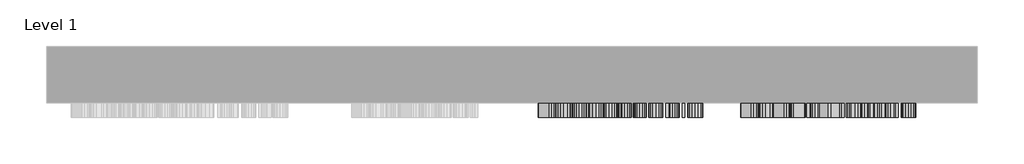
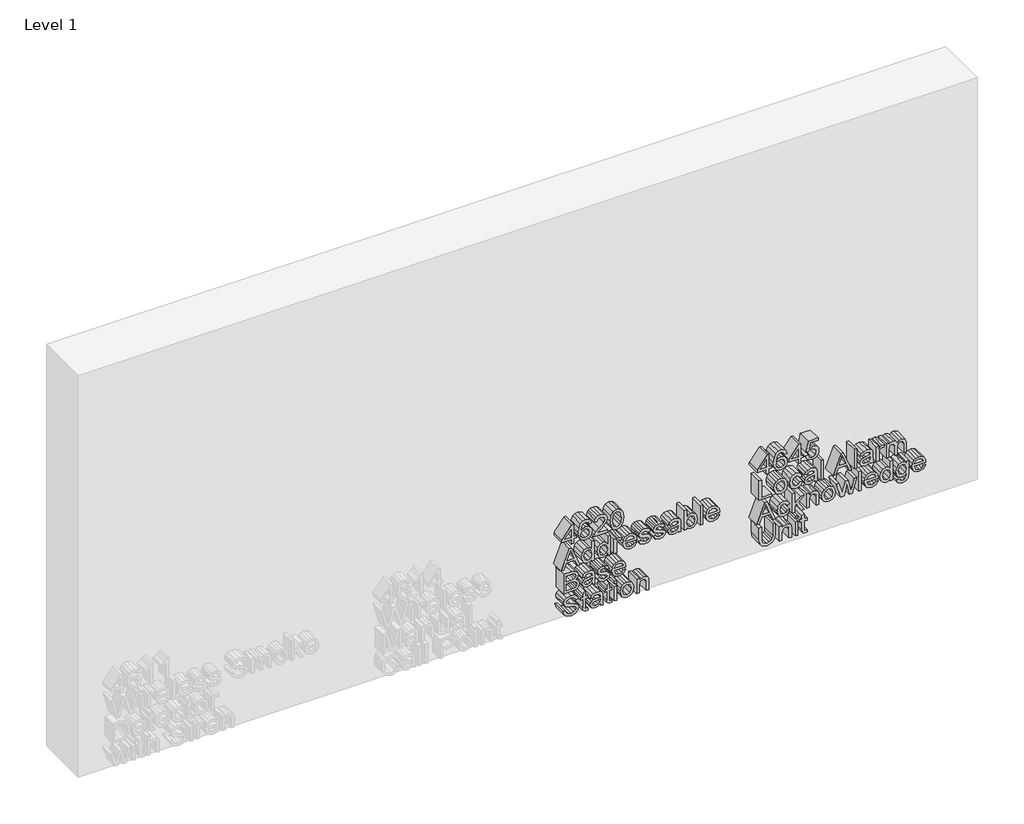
# One storey, part 2 of 2: 2 proxies.
"""IFC4 building model written with IfcOpenShell, lengths in millimetres."""

from ifc_helpers import new_model, si_unit, frame, origin, place, context, project, spatial, polyline, outline, extrude, element, save

model = new_model("IFC4")

# Units and contexts
model_context = context("Model", 3, world=origin())
ifc_project = project(units=[si_unit("LENGTHUNIT", "METRE", prefix="MILLI")], contexts=[model_context])

# Site, building, storey
site = spatial("IfcSite", under=ifc_project)
building = spatial("IfcBuilding", under=site)
storey = spatial("IfcBuildingStorey", under=building, Name="Level 1", Elevation=0.0)

# Proxies
placement = place(None, origin())
element("IfcBuildingElementProxy", 1, Name="75 mm", ObjectType="75 mm", at=placement, inside=storey, context=model_context, shape_type="SweptSolid", body=[
    extrude(outline(polyline([(309.6099203, -2173.7442573), (309.6099203, -2164.3264782), (327.2682561, -2164.3264782), (327.2682561, -2154.9086991), (336.6860352, -2154.9086991), (336.6860352, -2164.3264782), (383.7749306, -2164.3264782), (383.7749306, -2171.3898125), (336.6860352, -2207.8837064), (327.2682561, -2207.8837064), (327.2682561, -2173.7442573), (309.6099203, -2173.7442573)]), holes=[polyline([(336.6860352, -2173.7442573), (336.6860352, -2196.2954236), (365.785501, -2173.7442573), (336.6860352, -2173.7442573)])]), frame((0.0, 3097.8550077, 0.0), z_axis=(0.0, 1.0, 0.0), x_axis=(0.0, 0.0, 1.0)), (0.0, 0.0, 1.0), 50.0),
    extrude(outline(polyline([(364.9393724, -2098.4020247), (379.6362581, -2105.3549944), (384.9521529, -2120.2358211), (382.8046418, -2131.1665149), (376.3621084, -2139.6048081), (363.5368223, -2145.7852256), (344.7794391, -2147.8453648), (328.0959906, -2145.98986), (316.8939838, -2140.4233456), (310.5480194, -2131.9137752), (308.432698, -2121.2291025), (311.6240743, -2108.8866615), (320.8211241, -2100.3334051), (333.8165556, -2097.2248023), (343.4688595, -2098.8756727), (351.1621917, -2103.8282841), (356.1975765, -2111.1307417), (357.8760381, -2119.8311509), (355.4204258, -2130.1226497), (347.906436, -2138.4275857), (364.6910521, -2135.7512442), (373.2535055, -2129.3225064), (375.5343739, -2120.8244323), (371.6164306, -2111.3882591), (363.76215, -2107.8198037), (364.9393724, -2098.4020247)]), holes=[polyline([(333.9637084, -2138.4275857), (344.4575423, -2133.7462873), (348.458259, -2122.3511425), (344.4575423, -2110.808845), (333.5038559, -2106.6425814), (322.0627259, -2110.8640272), (317.850477, -2121.9648665), (319.8830251, -2130.4537435), (325.8059252, -2136.2478849), (333.9637084, -2138.4275857)])]), frame((0.0, 3097.8550077, 0.0), z_axis=(0.0, 1.0, 0.0), x_axis=(0.0, 0.0, 1.0)), (0.0, 0.0, 1.0), 50.0),
    extrude(outline(polyline([(319.0276994, -2040.7181278), (319.0276994, -2077.7086624), (323.8193624, -2073.4596254), (332.8784565, -2062.6255006), (345.7819175, -2049.1334285), (355.0157556, -2043.5692133), (363.946091, -2041.8953502), (372.1590566, -2043.4473524), (378.9188882, -2048.1033589), (383.4438368, -2055.4219113), (384.9521529, -2064.9615513), (383.5955881, -2074.4322134), (379.5258935, -2081.7645614), (372.8718279, -2086.701078), (363.76215, -2088.9842456), (362.5849276, -2079.5664665), (372.0946772, -2075.602538), (375.5343739, -2065.1638864), (372.0119038, -2055.1482991), (363.3758739, -2051.3131293), (352.7072961, -2055.3782253), (337.017129, -2071.6386095), (326.1002308, -2083.4292275), (316.1030376, -2089.1497925), (309.6099203, -2090.161468), (309.6099203, -2040.7181278), (319.0276994, -2040.7181278)])), frame((0.0, 3097.8550077, 0.0), z_axis=(0.0, 1.0, 0.0), x_axis=(0.0, 0.0, 1.0)), (0.0, 0.0, 1.0), 50.0),
    extrude(outline(polyline([(346.6740313, -2031.3003487), (328.3489095, -2029.4241506), (315.6063969, -2023.795556), (310.2261227, -2016.3643397), (308.432698, -2006.5786787), (312.5621733, -1992.7923009), (325.0885553, -1984.5977295), (346.6740313, -1981.8570086), (364.3783524, -1983.5676599), (375.5251768, -1987.9822438), (382.5241318, -1995.579007), (384.9521529, -2006.5786787), (380.8502687, -2020.3098741), (368.3514779, -2028.5320367), (346.6740313, -2031.3003487)]), holes=[polyline([(346.6924254, -2021.8825697), (361.3157348, -2020.7421355), (370.4943905, -2017.3208329), (375.5343739, -2006.6890433), (369.8138088, -1995.5422188), (346.6924254, -1991.2747877), (331.90127, -1992.3784337), (323.3227217, -1995.6893716), (317.850477, -2006.5786787), (323.3043276, -2017.4679857), (331.8782774, -2020.7789237), (346.6924254, -2021.8825697)])]), frame((0.0, 3097.8550077, 0.0), z_axis=(0.0, 1.0, 0.0), x_axis=(0.0, 0.0, 1.0)), (0.0, 0.0, 1.0), 50.0),
    extrude(outline(polyline([(218.128807, -2209.5943577), (218.128807, -2199.6431497), (241.6732546, -2191.034711), (241.6732546, -2160.0038648), (218.128807, -2151.377032), (218.128807, -2141.425824), (293.4710396, -2171.5001771), (293.4710396, -2179.5200046), (218.128807, -2209.5943577)]), holes=[polyline([(251.0910337, -2187.5766203), (271.232573, -2180.2005863), (284.0532605, -2175.5100909), (269.6138922, -2170.2309842), (251.0910337, -2163.4435614), (251.0910337, -2187.5766203)])]), frame((0.0, 3097.8550077, 0.0), z_axis=(0.0, 1.0, 0.0), x_axis=(0.0, 0.0, 1.0)), (0.0, 0.0, 1.0), 50.0),
    extrude(outline(polyline([(218.128807, -2098.4020247), (218.128807, -2088.9842456), (293.4710396, -2088.9842456), (293.4710396, -2098.4020247), (265.4016433, -2098.4020247), (272.0695045, -2104.6008363), (274.6354814, -2113.2828514), (271.048632, -2125.3033956), (260.729542, -2133.3784054), (245.7383507, -2136.073141), (230.7563564, -2133.1484791), (220.5936163, -2124.9079224), (216.9515846, -2113.2460632), (219.4669777, -2104.633026), (227.0131571, -2098.4020247), (218.128807, -2098.4020247)]), holes=[polyline([(245.7751389, -2126.6553619), (260.5364039, -2122.6822363), (265.2177023, -2112.7678166), (260.3432659, -2102.5498942), (245.057769, -2098.4020247), (230.9770856, -2102.4763178), (226.3693636, -2112.3815405), (231.1978148, -2122.4063248), (245.7751389, -2126.6553619)])]), frame((0.0, 3097.8550077, 0.0), z_axis=(0.0, 1.0, 0.0), x_axis=(0.0, 0.0, 1.0)), (0.0, 0.0, 1.0), 50.0),
    extrude(outline(polyline([(218.128807, -2040.7181278), (218.128807, -2031.3003487), (293.4710396, -2031.3003487), (293.4710396, -2040.7181278), (265.4016433, -2040.7181278), (272.0695045, -2046.9169394), (274.6354814, -2055.5989545), (271.048632, -2067.6194987), (260.729542, -2075.6945085), (245.7383507, -2078.3892441), (230.7563564, -2075.4645823), (220.5936163, -2067.2240256), (216.9515846, -2055.5621663), (219.4669777, -2046.9491291), (227.0131571, -2040.7181278), (218.128807, -2040.7181278)]), holes=[polyline([(245.7751389, -2068.971465), (260.5364039, -2064.9983395), (265.2177023, -2055.0839197), (260.3432659, -2044.8659973), (245.057769, -2040.7181278), (230.9770856, -2044.7924209), (226.3693636, -2054.6976436), (231.1978148, -2064.722428), (245.7751389, -2068.971465)])]), frame((0.0, 3097.8550077, 0.0), z_axis=(0.0, 1.0, 0.0), x_axis=(0.0, 0.0, 1.0)), (0.0, 0.0, 1.0), 50.0),
    extrude(outline(polyline([(218.128807, -2017.1736801), (218.128807, -2007.7559011), (247.2098787, -2007.7559011), (258.2095503, -2006.2291908), (263.3598983, -2002.8354794), (265.2177023, -1997.5103875), (263.2863219, -1990.8885116), (271.7292136, -1987.7431205), (274.6354814, -1997.1976878), (272.8144655, -2003.0837997), (265.2728846, -2008.9331234), (273.458259, -2008.9331234), (273.458259, -2017.1736801), (218.128807, -2017.1736801)])), frame((0.0, 3097.8550077, 0.0), z_axis=(0.0, 1.0, 0.0), x_axis=(0.0, 0.0, 1.0)), (0.0, 0.0, 1.0), 50.0),
    extrude(outline(polyline([(234.6099203, -1943.1190345), (228.3375323, -1949.1890874), (226.3693636, -1958.4229255), (230.6184007, -1970.5538343), (242.850477, -1975.9708967), (242.850477, -1933.6460731), (245.3888628, -1933.5908908), (257.7359023, -1935.3774178), (266.9651418, -1940.7369986), (272.7178965, -1948.9108767), (274.6354814, -1959.1402954), (272.713298, -1969.6985087), (266.9467477, -1978.0862181), (257.6991141, -1983.5630613), (245.3336805, -1985.3886757), (233.3706179, -1983.5814554), (224.410392, -1978.1597945), (218.8162864, -1969.6571219), (216.9515846, -1958.6068665), (221.274198, -1942.5212263), (233.432698, -1933.8851964), (234.6099203, -1943.1190345)]), holes=[polyline([(252.2682561, -1975.9708967), (261.6952322, -1970.7745635), (265.2177023, -1959.1770836), (260.8031184, -1946.7794604), (252.2682561, -1943.0086699), (252.2682561, -1975.9708967)])]), frame((0.0, 3097.8550077, 0.0), z_axis=(0.0, 1.0, 0.0), x_axis=(0.0, 0.0, 1.0)), (0.0, 0.0, 1.0), 50.0),
    extrude(outline(polyline([(234.6099203, -1927.7047789), (221.4029567, -1920.4942918), (216.9515846, -1904.0683607), (219.2600441, -1892.4065015), (225.7991466, -1884.5246297), (234.8122554, -1881.7931059), (242.9976298, -1884.1199595), (248.0192191, -1890.5395003), (252.4521971, -1904.3626663), (254.457154, -1912.4744643), (256.5356872, -1915.9877374), (259.2764081, -1917.1097774), (263.4334747, -1914.4058448), (265.2177023, -1905.3927359), (263.3507012, -1897.106194), (258.154368, -1893.5653297), (259.3315904, -1884.1475507), (267.7836793, -1887.3849122), (272.7868744, -1894.6689757), (274.6354814, -1906.1284999), (273.4858502, -1914.2311008), (270.6991441, -1920.2183803), (265.337264, -1924.8352993), (258.3199149, -1926.5275565), (250.7231517, -1924.4214321), (245.3428775, -1918.2318175), (240.7351556, -1904.0499666), (238.049617, -1894.356276), (233.818974, -1891.210885), (228.5950497, -1894.3378819), (226.3693636, -1903.939602), (228.7973848, -1913.9275982), (235.7871427, -1918.2869998), (234.6099203, -1927.7047789)])), frame((0.0, 3097.8550077, 0.0), z_axis=(0.0, 1.0, 0.0), x_axis=(0.0, 0.0, 1.0)), (0.0, 0.0, 1.0), 50.0),
    extrude(outline(polyline([(234.6099203, -1874.7297716), (221.4029567, -1867.5192845), (216.9515846, -1851.0933534), (219.2600441, -1839.4314942), (225.7991466, -1831.5496224), (234.8122554, -1828.8180986), (242.9976298, -1831.1449522), (248.0192191, -1837.564493), (252.4521971, -1851.387659), (254.457154, -1859.499457), (256.5356872, -1863.01273), (259.2764081, -1864.1347701), (263.4334747, -1861.4308375), (265.2177023, -1852.4177286), (263.3507012, -1844.1311866), (258.154368, -1840.5903224), (259.3315904, -1831.1725434), (267.7836793, -1834.4099049), (272.7868744, -1841.6939684), (274.6354814, -1853.1534926), (273.4858502, -1861.2560935), (270.6991441, -1867.243373), (265.337264, -1871.860292), (258.3199149, -1873.5525492), (250.7231517, -1871.4464248), (245.3428775, -1865.2568102), (240.7351556, -1851.0749593), (238.049617, -1841.3812687), (233.818974, -1838.2358777), (228.5950497, -1841.3628746), (226.3693636, -1850.9645947), (228.7973848, -1860.9525909), (235.7871427, -1865.3119925), (234.6099203, -1874.7297716)])), frame((0.0, 3097.8550077, 0.0), z_axis=(0.0, 1.0, 0.0), x_axis=(0.0, 0.0, 1.0)), (0.0, 0.0, 1.0), 50.0),
    extrude(outline(polyline([(225.1921413, -1782.9064256), (218.128807, -1780.5519808), (218.128807, -1771.1342018), (226.0474669, -1773.0103999), (242.4090186, -1773.4886465), (254.1260602, -1773.4886465), (262.3666169, -1773.948499), (268.7585665, -1776.8363727), (272.9616183, -1783.2835046), (274.6354814, -1794.6970435), (272.7408891, -1807.1222579), (267.3514179, -1815.3260264), (258.154368, -1819.4003195), (256.9771456, -1809.9825404), (263.4058835, -1805.4391978), (265.2177023, -1795.9110541), (262.4953756, -1785.4999937), (255.5424059, -1782.9064256), (253.4454785, -1782.9616079), (250.2081169, -1799.2955685), (248.7917712, -1807.4441547), (245.7015625, -1814.0384394), (240.2936972, -1818.7749201), (232.8440868, -1820.5775419), (221.4213508, -1815.804273), (216.9515846, -1802.1282598), (218.8093886, -1792.0390961), (225.1921413, -1782.9064256)]), holes=[polyline([(244.0276994, -1782.9064256), (241.3605549, -1782.9616079), (234.0764914, -1784.45153), (228.6226409, -1790.5951593), (226.3693636, -1800.123303), (228.4111087, -1808.3546626), (233.5062744, -1811.1597628), (237.129912, -1809.8721758), (239.6131155, -1806.2025529), (241.1398258, -1798.099952), (244.0276994, -1782.9064256)])]), frame((0.0, 3097.8550077, 0.0), z_axis=(0.0, 1.0, 0.0), x_axis=(0.0, 0.0, 1.0)), (0.0, 0.0, 1.0), 50.0),
    extrude(outline(polyline([(218.128807, -1751.1214212), (226.9395807, -1751.1214212), (219.4485836, -1744.7616612), (216.9515846, -1736.3877473), (218.8875636, -1727.6114625), (224.6955006, -1720.1917425), (234.0489003, -1715.1356643), (246.6212675, -1713.4503049), (257.8508654, -1715.0781827), (266.817989, -1719.5755401), (272.5845393, -1726.8963918), (274.6354814, -1736.332565), (272.3592116, -1744.5271365), (265.530402, -1751.1214212), (293.4710396, -1751.1214212), (293.4710396, -1760.5392003), (218.128807, -1760.5392003), (218.128807, -1751.1214212)]), holes=[polyline([(246.1798091, -1751.1214212), (260.3248718, -1746.8723842), (265.2177023, -1736.7924175), (260.4904187, -1726.9423771), (245.8487153, -1722.868084), (231.2621942, -1727.117121), (226.3693636, -1737.1970877), (228.0294311, -1743.61203), (233.0096337, -1748.5462472), (246.1798091, -1751.1214212)])]), frame((0.0, 3097.8550077, 0.0), z_axis=(0.0, 1.0, 0.0), x_axis=(0.0, 0.0, 1.0)), (0.0, 0.0, 1.0), 50.0),
    extrude(outline(polyline([(-1693.4375244, 3097.8550077), (-1702.8553034, 3097.8550077), (-1702.8553034, 3147.8550077), (-1693.4375244, 3147.8550077), (-1693.4375244, 3097.8550077)])), frame((0.0, 0.0, 218.128807), z_axis=(0.0, 0.0, 1.0), x_axis=(1.0, 0.0, 0.0)), (0.0, 0.0, 1.0), 75.3422326),
    extrude(outline(polyline([(234.6099203, -1640.5728817), (228.3375323, -1646.6429346), (226.3693636, -1655.8767727), (230.6184007, -1668.0076815), (242.850477, -1673.4247438), (242.850477, -1631.0999203), (245.3888628, -1631.044738), (257.7359023, -1632.8312649), (266.9651418, -1638.1908457), (272.7178965, -1646.3647238), (274.6354814, -1656.5941426), (272.713298, -1667.1523558), (266.9467477, -1675.5400653), (257.6991141, -1681.0169085), (245.3336805, -1682.8425229), (233.3706179, -1681.0353026), (224.410392, -1675.6136417), (218.8162864, -1667.1109691), (216.9515846, -1656.0607137), (221.274198, -1639.9750734), (233.432698, -1631.3390436), (234.6099203, -1640.5728817)]), holes=[polyline([(252.2682561, -1673.4247438), (261.6952322, -1668.2284107), (265.2177023, -1656.6309308), (260.8031184, -1644.2333075), (252.2682561, -1640.4625171), (252.2682561, -1673.4247438)])]), frame((0.0, 3097.8550077, 0.0), z_axis=(0.0, 1.0, 0.0), x_axis=(0.0, 0.0, 1.0)), (0.0, 0.0, 1.0), 50.0),
    extrude(outline(polyline([(126.6476936, -2200.8203721), (126.6476936, -2172.2911234), (127.9444776, -2160.2153969), (131.7704504, -2152.0208255), (138.9809375, -2146.5301867), (149.1068894, -2144.3136977), (160.8239309, -2147.5602563), (167.850477, -2156.8400796), (174.5183382, -2149.1973311), (183.3199149, -2146.6681424), (192.9584232, -2149.6755777), (199.7734372, -2157.9897108), (201.9899262, -2172.0703942), (201.9899262, -2200.8203721), (126.6476936, -2200.8203721)]), holes=[polyline([(171.3821442, -2191.402593), (192.5721471, -2191.402593), (192.5721471, -2175.5100909), (191.5880628, -2163.4067732), (187.9552281, -2157.9805138), (181.8115987, -2156.0859215), (175.6771665, -2158.1184695), (172.1914846, -2164.1609313), (171.3821442, -2174.2041098), (171.3821442, -2191.402593)]), polyline([(136.0654726, -2191.402593), (161.9643651, -2191.402593), (161.9643651, -2173.0084933), (160.7043693, -2161.3742252), (156.3357706, -2155.5340985), (149.0149189, -2153.7314767), (142.6689545, -2155.2673841), (138.4842968, -2159.1853273), (136.4333546, -2165.0990304), (136.0654726, -2172.0887883), (136.0654726, -2191.402593)])]), frame((0.0, 3097.8550077, 0.0), z_axis=(0.0, 1.0, 0.0), x_axis=(0.0, 0.0, 1.0)), (0.0, 0.0, 1.0), 50.0),
    extrude(outline(polyline([(133.7110279, -2097.2248023), (126.6476936, -2094.8703575), (126.6476936, -2085.4525784), (134.5663535, -2087.3287766), (150.9279052, -2087.8070232), (162.6449468, -2087.8070232), (170.8855035, -2088.2668757), (177.2774532, -2091.1547494), (181.4805049, -2097.6018813), (183.154368, -2109.0154202), (181.2597758, -2121.4406346), (175.8703045, -2129.6444031), (166.6732546, -2133.7186962), (165.4960323, -2124.3009171), (171.9247701, -2119.7575745), (173.736589, -2110.2294308), (171.0142622, -2099.8183703), (164.0612925, -2097.2248023), (161.9643651, -2097.2799846), (158.7270035, -2113.6139452), (157.3106579, -2121.7625314), (154.2204491, -2128.3568161), (148.8125838, -2133.0932968), (141.3629734, -2134.8959186), (129.9402374, -2130.1226497), (125.4704712, -2116.4466365), (127.3282753, -2106.3574728), (133.7110279, -2097.2248023)]), holes=[polyline([(152.546586, -2097.2248023), (149.8794416, -2097.2799846), (142.5953781, -2098.7699067), (137.1415275, -2104.913536), (134.8882503, -2114.4416797), (136.9299953, -2122.6730393), (142.025161, -2125.4781395), (145.6487986, -2124.1905525), (148.1320021, -2120.5209296), (149.6587124, -2112.4183287), (152.546586, -2097.2248023)])]), frame((0.0, 3097.8550077, 0.0), z_axis=(0.0, 1.0, 0.0), x_axis=(0.0, 0.0, 1.0)), (0.0, 0.0, 1.0), 50.0),
    extrude(outline(polyline([(143.128807, -2078.3892441), (129.9218433, -2071.178757), (125.4704712, -2054.7528259), (127.7789307, -2043.0909667), (134.3180332, -2035.2090949), (143.331142, -2032.4775711), (151.5165164, -2034.8044247), (156.5381057, -2041.2239656), (160.9710837, -2055.0471315), (162.9760406, -2063.1589295), (165.0545739, -2066.6722026), (167.7952947, -2067.7942427), (171.9523613, -2065.09031), (173.736589, -2056.0772011), (171.8695878, -2047.7906592), (166.6732546, -2044.249795), (167.850477, -2034.8320159), (176.3025659, -2038.0693775), (181.305761, -2045.353441), (183.154368, -2056.8129651), (182.0047368, -2064.9155661), (179.2180307, -2070.9028455), (173.8561506, -2075.5197646), (166.8388015, -2077.2120217), (159.2420383, -2075.1058973), (153.8617642, -2068.9162827), (149.2540422, -2054.7344318), (146.5685036, -2045.0407413), (142.3378607, -2041.8953502), (137.1139363, -2045.0223472), (134.8882503, -2054.6240672), (137.3162714, -2064.6120634), (144.3060293, -2068.971465), (143.128807, -2078.3892441)])), frame((0.0, 3097.8550077, 0.0), z_axis=(0.0, 1.0, 0.0), x_axis=(0.0, 0.0, 1.0)), (0.0, 0.0, 1.0), 50.0),
    extrude(outline(polyline([(143.128807, -1983.1445956), (136.8564189, -1989.2146485), (134.8882503, -1998.4484866), (139.1372873, -2010.5793954), (151.3693636, -2015.9964577), (151.3693636, -1973.6716342), (153.9077494, -1973.6164519), (166.2547889, -1975.4029788), (175.4840284, -1980.7625597), (181.2367831, -1988.9364377), (183.154368, -1999.1658565), (181.2321846, -2009.7240697), (175.4656343, -2018.1117792), (166.2180007, -2023.5886224), (153.8525671, -2025.4142368), (141.8895045, -2023.6070165), (132.9292786, -2018.1853556), (127.335173, -2009.682683), (125.4704712, -1998.6324276), (129.7930846, -1982.5467873), (141.9515846, -1973.9107575), (143.128807, -1983.1445956)]), holes=[polyline([(160.7871427, -2015.9964577), (170.2141188, -2010.8001246), (173.736589, -1999.2026447), (169.322005, -1986.8050214), (160.7871427, -1983.034231), (160.7871427, -2015.9964577)])]), frame((0.0, 3097.8550077, 0.0), z_axis=(0.0, 1.0, 0.0), x_axis=(0.0, 0.0, 1.0)), (0.0, 0.0, 1.0), 50.0),
    extrude(outline(polyline([(61.0654726, -2204.3520393), (46.6812866, -2200.2869432), (37.153143, -2189.6459565), (33.9893578, -2172.8245523), (36.9232167, -2158.578322), (45.1453793, -2148.8662374), (56.4117654, -2145.49092), (67.0619492, -2148.424779), (74.6955006, -2157.5390554), (79.4227842, -2174.2041098), (84.6834967, -2189.5815772), (91.2134021, -2192.5798154), (99.0308945, -2188.3491725), (102.2682561, -2174.8662974), (98.9941063, -2161.4202104), (89.3188099, -2156.0859215), (89.3188099, -2146.6681424), (101.1094278, -2150.4021447), (109.0004966, -2160.3349586), (111.6860352, -2175.2341794), (109.1200583, -2189.1953011), (101.5968715, -2198.7326418), (90.9374907, -2201.9975945), (81.5748939, -2199.3580412), (74.5667419, -2191.3474107), (69.9222317, -2176.5861457), (66.3261852, -2162.8733443), (62.049557, -2156.4721976), (56.1726421, -2154.9086991), (49.8542688, -2156.9964294), (45.1269852, -2163.3515909), (43.4071369, -2173.1924343), (45.6788082, -2184.4864115), (51.6384965, -2191.8992337), (61.0654726, -2194.9342602), (61.0654726, -2204.3520393)])), frame((0.0, 3097.8550077, 0.0), z_axis=(0.0, 1.0, 0.0), x_axis=(0.0, 0.0, 1.0)), (0.0, 0.0, 1.0), 50.0),
    extrude(outline(polyline([(43.0208608, -2112.5286933), (43.4071369, -2116.6305775), (44.0417333, -2119.8403479), (45.7615816, -2121.4498317), (50.617624, -2121.9464724), (81.0782532, -2121.9464724), (81.0782532, -2112.5286933), (90.4960323, -2112.5286933), (90.4960323, -2121.9464724), (109.4787432, -2121.9464724), (103.9421192, -2131.3642514), (90.4960323, -2131.3642514), (90.4960323, -2138.4275857), (81.0782532, -2138.4275857), (81.0782532, -2131.3642514), (50.3417125, -2131.3642514), (39.6547405, -2130.2238172), (35.5528563, -2126.2874799), (33.9893578, -2118.3964111), (34.8906687, -2111.3514709), (43.0208608, -2112.5286933)])), frame((0.0, 3097.8550077, 0.0), z_axis=(0.0, 1.0, 0.0), x_axis=(0.0, 0.0, 1.0)), (0.0, 0.0, 1.0), 50.0),
    extrude(outline(polyline([(42.2299145, -2067.7942427), (35.1665802, -2065.4397979), (35.1665802, -2056.0220188), (43.0852401, -2057.898217), (59.4467919, -2058.3764636), (71.1638334, -2058.3764636), (79.4043901, -2058.8363161), (85.7963398, -2061.7241897), (89.9993916, -2068.1713217), (91.6732546, -2079.5848606), (89.7786624, -2092.010075), (84.3891911, -2100.2138435), (75.1921413, -2104.2881366), (74.0149189, -2094.8703575), (80.4436567, -2090.3270149), (82.2554756, -2080.7988712), (79.5331488, -2070.3878107), (72.5801791, -2067.7942427), (70.4832517, -2067.849425), (67.2458902, -2084.1833855), (65.8295445, -2092.3319717), (62.7393357, -2098.9262565), (57.3314704, -2103.6627372), (49.88186, -2105.465359), (38.459124, -2100.6920901), (33.9893578, -2087.0160769), (35.8471619, -2076.9269132), (42.2299145, -2067.7942427)]), holes=[polyline([(61.0654726, -2067.7942427), (58.3983282, -2067.849425), (51.1142647, -2069.339347), (45.6604141, -2075.4829764), (43.4071369, -2085.01112), (45.4488819, -2093.2424797), (50.5440476, -2096.0475799), (54.1676852, -2094.7599929), (56.6508887, -2091.09037), (58.177599, -2082.9877691), (61.0654726, -2067.7942427)])]), frame((0.0, 3097.8550077, 0.0), z_axis=(0.0, 1.0, 0.0), x_axis=(0.0, 0.0, 1.0)), (0.0, 0.0, 1.0), 50.0),
    extrude(outline(polyline([(43.0208608, -2025.4142368), (43.4071369, -2029.5161211), (44.0417333, -2032.7258915), (45.7615816, -2034.3353752), (50.617624, -2034.8320159), (81.0782532, -2034.8320159), (81.0782532, -2025.4142368), (90.4960323, -2025.4142368), (90.4960323, -2034.8320159), (109.4787432, -2034.8320159), (103.9421192, -2044.249795), (90.4960323, -2044.249795), (90.4960323, -2051.3131293), (81.0782532, -2051.3131293), (81.0782532, -2044.249795), (50.3417125, -2044.249795), (39.6547405, -2043.1093608), (35.5528563, -2039.1730234), (33.9893578, -2031.2819546), (34.8906687, -2024.2370144), (43.0208608, -2025.4142368)])), frame((0.0, 3097.8550077, 0.0), z_axis=(0.0, 1.0, 0.0), x_axis=(0.0, 0.0, 1.0)), (0.0, 0.0, 1.0), 50.0),
    extrude(outline(polyline([(-2006.5786787, 3097.8550077), (-2015.9964577, 3097.8550077), (-2015.9964577, 3147.8550077), (-2006.5786787, 3147.8550077), (-2006.5786787, 3097.8550077)])), frame((0.0, 0.0, 101.0910337), z_axis=(0.0, 0.0, 1.0), x_axis=(1.0, 0.0, 0.0)), (0.0, 0.0, 1.0), 9.4177791),
    extrude(outline(polyline([(-2006.5786787, 3097.8550077), (-2015.9964577, 3097.8550077), (-2015.9964577, 3147.8550077), (-2006.5786787, 3147.8550077), (-2006.5786787, 3097.8550077)])), frame((0.0, 0.0, 35.1665802), z_axis=(0.0, 0.0, 1.0), x_axis=(1.0, 0.0, 0.0)), (0.0, 0.0, 1.0), 55.3294521),
    extrude(outline(polyline([(62.8313062, -1994.8064548), (50.4888653, -1993.0981028), (41.4205741, -1987.9730468), (35.8471619, -1980.0796787), (33.9893578, -1970.0663906), (37.3646751, -1957.3100825), (46.8468335, -1948.4165352), (63.6038584, -1945.3631147), (75.3323963, -1947.0898608), (84.2144472, -1952.2700991), (89.8085528, -1960.1726642), (91.6732546, -1970.0663906), (90.1419458, -1979.1070907), (85.5480194, -1986.6578686), (76.1716271, -1992.7693083), (62.8313062, -1994.8064548)]), holes=[polyline([(62.8497003, -1985.3886757), (77.4270244, -1981.0292741), (82.2554756, -1970.0663906), (77.4086303, -1959.1678865), (63.1440059, -1954.7808937), (48.2815733, -1959.1402954), (43.4071369, -1970.0663906), (48.2539822, -1981.0292741), (62.8497003, -1985.3886757)])]), frame((0.0, 3097.8550077, 0.0), z_axis=(0.0, 1.0, 0.0), x_axis=(0.0, 0.0, 1.0)), (0.0, 0.0, 1.0), 50.0),
    extrude(outline(polyline([(35.1665802, -1934.7681132), (35.1665802, -1925.3503341), (64.5235634, -1925.3503341), (78.5582615, -1921.0553118), (82.2554756, -1910.8373894), (80.6092036, -1904.3718634), (76.2038167, -1900.5366936), (67.8712896, -1899.4514417), (35.1665802, -1899.4514417), (35.1665802, -1890.0336626), (69.1404824, -1890.0336626), (78.2455618, -1890.5303033), (85.1709404, -1893.3537976), (89.8798299, -1899.4238505), (91.6732546, -1908.3173978), (89.4475686, -1918.1490441), (82.7705104, -1925.3503341), (90.4960323, -1925.3503341), (90.4960323, -1934.7681132), (35.1665802, -1934.7681132)])), frame((0.0, 3097.8550077, 0.0), z_axis=(0.0, 1.0, 0.0), x_axis=(0.0, 0.0, 1.0)), (0.0, 0.0, 1.0), 50.0),
])
element("IfcBuildingElementProxy", 2, Name="75 mm", ObjectType="75 mm", at=placement, inside=storey, context=model_context, shape_type="SweptSolid", body=[
    extrude(outline(polyline([(329.6099203, -1461.2926986), (329.6099203, -1451.8749195), (347.2682561, -1451.8749195), (347.2682561, -1442.4571405), (356.6860352, -1442.4571405), (356.6860352, -1451.8749195), (403.7749306, -1451.8749195), (403.7749306, -1458.9382539), (356.6860352, -1495.4321478), (347.2682561, -1495.4321478), (347.2682561, -1461.2926986), (329.6099203, -1461.2926986)]), holes=[polyline([(356.6860352, -1461.2926986), (356.6860352, -1483.8438649), (385.785501, -1461.2926986), (356.6860352, -1461.2926986)])]), frame((0.0, 3097.8550077, 0.0), z_axis=(0.0, 1.0, 0.0), x_axis=(0.0, 0.0, 1.0)), (0.0, 0.0, 1.0), 50.0),
    extrude(outline(polyline([(384.9393724, -1385.950466), (399.6362581, -1392.9034357), (404.9521529, -1407.7842624), (402.8046418, -1418.7149562), (396.3621084, -1427.1532495), (383.5368223, -1433.333667), (364.7794391, -1435.3938062), (348.0959906, -1433.5383013), (336.8939838, -1427.9717869), (330.5480194, -1419.4622165), (328.432698, -1408.7775438), (331.6240743, -1396.4351029), (340.8211241, -1387.8818465), (353.8165556, -1384.7732436), (363.4688595, -1386.4241141), (371.1621917, -1391.3767254), (376.1975765, -1398.679183), (377.8760381, -1407.3795922), (375.4204258, -1417.671091), (367.906436, -1425.9760271), (384.6910521, -1423.2996856), (393.2535055, -1416.8709477), (395.5343739, -1408.3728736), (391.6164306, -1398.9367004), (383.76215, -1395.3682451), (384.9393724, -1385.950466)]), holes=[polyline([(353.9637084, -1425.9760271), (364.4575423, -1421.2947287), (368.458259, -1409.8995839), (364.4575423, -1398.3572863), (353.5038559, -1394.1910227), (342.0627259, -1398.4124686), (337.850477, -1409.5133078), (339.8830251, -1418.0021848), (345.8059252, -1423.7963263), (353.9637084, -1425.9760271)])]), frame((0.0, 3097.8550077, 0.0), z_axis=(0.0, 1.0, 0.0), x_axis=(0.0, 0.0, 1.0)), (0.0, 0.0, 1.0), 50.0),
    extrude(outline(polyline([(329.6099203, -1345.9249049), (329.6099203, -1336.5071259), (347.2682561, -1336.5071259), (347.2682561, -1327.0893468), (356.6860352, -1327.0893468), (356.6860352, -1336.5071259), (403.7749306, -1336.5071259), (403.7749306, -1343.5704602), (356.6860352, -1380.0643541), (347.2682561, -1380.0643541), (347.2682561, -1345.9249049), (329.6099203, -1345.9249049)]), holes=[polyline([(356.6860352, -1345.9249049), (356.6860352, -1368.4760712), (385.785501, -1345.9249049), (356.6860352, -1345.9249049)])]), frame((0.0, 3097.8550077, 0.0), z_axis=(0.0, 1.0, 0.0), x_axis=(0.0, 0.0, 1.0)), (0.0, 0.0, 1.0), 50.0),
    extrude(outline(polyline([(349.6227009, -1318.8487901), (340.9843718, -1316.5518269), (334.2360364, -1311.5003472), (329.8835326, -1304.131211), (328.432698, -1294.8812781), (330.6905737, -1283.7896359), (337.4642009, -1275.309956), (345.5208166, -1270.8815764), (354.9385957, -1269.4054499), (364.586301, -1271.0448241), (372.3026259, -1275.9629465), (377.3656018, -1283.2677034), (379.0532605, -1292.0669808), (373.608607, -1305.8441616), (394.3571515, -1301.8158537), (394.3571515, -1272.9371171), (403.7749306, -1272.9371171), (403.7749306, -1309.431011), (364.9265919, -1317.6715677), (363.7493695, -1308.2537886), (367.9984065, -1302.9654849), (369.6354814, -1294.6973371), (365.5335972, -1282.7687634), (354.3499845, -1278.823229), (342.3662285, -1283.0354779), (337.850477, -1294.8444899), (341.0970356, -1304.6853333), (350.7999233, -1309.431011), (349.6227009, -1318.8487901)])), frame((0.0, 3097.8550077, 0.0), z_axis=(0.0, 1.0, 0.0), x_axis=(0.0, 0.0, 1.0)), (0.0, 0.0, 1.0), 50.0),
    extrude(outline(polyline([(238.128807, -1488.3688135), (238.128807, -1441.2799181), (247.546586, -1441.2799181), (247.546586, -1478.9510344), (313.4710396, -1478.9510344), (313.4710396, -1488.3688135), (238.128807, -1488.3688135)])), frame((0.0, 3097.8550077, 0.0), z_axis=(0.0, 1.0, 0.0), x_axis=(0.0, 0.0, 1.0)), (0.0, 0.0, 1.0), 50.0),
    extrude(outline(polyline([(265.793533, -1434.2165838), (253.4510921, -1432.5082318), (244.3828009, -1427.3831757), (238.8093886, -1419.4898077), (236.9515846, -1409.4765196), (240.3269019, -1396.7202114), (249.8090603, -1387.8266642), (266.5660852, -1384.7732436), (278.294623, -1386.4999897), (287.176674, -1391.6802281), (292.7707795, -1399.5827932), (294.6354814, -1409.4765196), (293.1041726, -1418.5172196), (288.5102462, -1426.0679976), (279.1338538, -1432.1794372), (265.793533, -1434.2165838)]), holes=[polyline([(265.8119271, -1424.7988047), (280.3892511, -1420.4394031), (285.2177023, -1409.4765196), (280.370857, -1398.5780155), (266.1062327, -1394.1910227), (251.2438001, -1398.5504243), (246.3693636, -1409.4765196), (251.2162089, -1420.4394031), (265.8119271, -1424.7988047)])]), frame((0.0, 3097.8550077, 0.0), z_axis=(0.0, 1.0, 0.0), x_axis=(0.0, 0.0, 1.0)), (0.0, 0.0, 1.0), 50.0),
    extrude(outline(polyline([(258.1415875, -1338.8615706), (249.2572373, -1343.3773221), (246.3693636, -1352.2524752), (250.9954797, -1363.0038266), (265.8487153, -1367.1149079), (280.5639951, -1362.9118561), (285.2177023, -1351.9949579), (282.8540605, -1344.4073917), (275.7999233, -1340.038793), (276.9771456, -1330.6210139), (290.0369565, -1337.7487276), (294.6354814, -1352.0685343), (291.2877553, -1364.8800247), (281.2353797, -1373.6540103), (265.5911979, -1376.5326869), (253.3660193, -1374.8473275), (244.3552097, -1369.7912494), (238.8024909, -1361.9576621), (236.9515846, -1351.9397756), (242.2582823, -1337.0037665), (256.9643651, -1329.4437915), (258.1415875, -1338.8615706)])), frame((0.0, 3097.8550077, 0.0), z_axis=(0.0, 1.0, 0.0), x_axis=(0.0, 0.0, 1.0)), (0.0, 0.0, 1.0), 50.0),
    extrude(outline(polyline([(245.1921413, -1285.8865633), (238.128807, -1283.5321185), (238.128807, -1274.1143395), (246.0474669, -1275.9905376), (262.4090186, -1276.4687842), (274.1260602, -1276.4687842), (282.3666169, -1276.9286367), (288.7585665, -1279.8165104), (292.9616183, -1286.2636424), (294.6354814, -1297.6771813), (292.7408891, -1310.1023957), (287.3514179, -1318.3061641), (278.154368, -1322.3804572), (276.9771456, -1312.9626782), (283.4058835, -1308.4193355), (285.2177023, -1298.8911918), (282.4953756, -1288.4801314), (275.5424059, -1285.8865633), (273.4454785, -1285.9417456), (270.2081169, -1302.2757062), (268.7917712, -1310.4242924), (265.7015625, -1317.0185772), (260.2936972, -1321.7550578), (252.8440868, -1323.5576796), (241.4213508, -1318.7844107), (236.9515846, -1305.1083976), (238.8093886, -1295.0192338), (245.1921413, -1285.8865633)]), holes=[polyline([(264.0276994, -1285.8865633), (261.3605549, -1285.9417456), (254.0764914, -1287.4316677), (248.6226409, -1293.575297), (246.3693636, -1303.1034407), (248.4111087, -1311.3348003), (253.5062744, -1314.1399005), (257.129912, -1312.8523136), (259.6131155, -1309.1826907), (261.1398258, -1301.0800897), (264.0276994, -1285.8865633)])]), frame((0.0, 3097.8550077, 0.0), z_axis=(0.0, 1.0, 0.0), x_axis=(0.0, 0.0, 1.0)), (0.0, 0.0, 1.0), 50.0),
    extrude(outline(polyline([(-1254.1015589, 3097.8550077), (-1263.519338, 3097.8550077), (-1263.519338, 3147.8550077), (-1254.1015589, 3147.8550077), (-1254.1015589, 3097.8550077)])), frame((0.0, 0.0, 238.128807), z_axis=(0.0, 0.0, 1.0), x_axis=(1.0, 0.0, 0.0)), (0.0, 0.0, 1.0), 75.3422326),
    extrude(outline(polyline([(238.128807, -1218.1410939), (238.128807, -1208.1898859), (261.6732546, -1199.5814473), (261.6732546, -1168.550601), (238.128807, -1159.9237682), (238.128807, -1149.9725602), (313.4710396, -1180.0469133), (313.4710396, -1188.0667408), (238.128807, -1218.1410939)]), holes=[polyline([(271.0910337, -1196.1233565), (291.232573, -1188.7473225), (304.0532605, -1184.0568271), (289.6138922, -1178.7777204), (271.0910337, -1171.9902976), (271.0910337, -1196.1233565)])]), frame((0.0, 3097.8550077, 0.0), z_axis=(0.0, 1.0, 0.0), x_axis=(0.0, 0.0, 1.0)), (0.0, 0.0, 1.0), 50.0),
    extrude(outline(polyline([(-1131.6704309, 3097.8550077), (-1141.08821, 3097.8550077), (-1141.08821, 3147.8550077), (-1131.6704309, 3147.8550077), (-1131.6704309, 3097.8550077)])), frame((0.0, 0.0, 238.128807), z_axis=(0.0, 0.0, 1.0), x_axis=(1.0, 0.0, 0.0)), (0.0, 0.0, 1.0), 75.3422326),
    extrude(outline(polyline([(245.1921413, -1082.2270908), (238.128807, -1079.872646), (238.128807, -1070.4548669), (246.0474669, -1072.3310651), (262.4090186, -1072.8093117), (274.1260602, -1072.8093117), (282.3666169, -1073.2691642), (288.7585665, -1076.1570379), (292.9616183, -1082.6041698), (294.6354814, -1094.0177087), (292.7408891, -1106.4429231), (287.3514179, -1114.6466916), (278.154368, -1118.7209847), (276.9771456, -1109.3032056), (283.4058835, -1104.759863), (285.2177023, -1095.2317193), (282.4953756, -1084.8206589), (275.5424059, -1082.2270908), (273.4454785, -1082.2822731), (270.2081169, -1098.6162337), (268.7917712, -1106.7648199), (265.7015625, -1113.3591046), (260.2936972, -1118.0955853), (252.8440868, -1119.8982071), (241.4213508, -1115.1249382), (236.9515846, -1101.448925), (238.8093886, -1091.3597613), (245.1921413, -1082.2270908)]), holes=[polyline([(264.0276994, -1082.2270908), (261.3605549, -1082.2822731), (254.0764914, -1083.7721952), (248.6226409, -1089.9158245), (246.3693636, -1099.4439682), (248.4111087, -1107.6753278), (253.5062744, -1110.480428), (257.129912, -1109.192841), (259.6131155, -1105.5232181), (261.1398258, -1097.4206172), (264.0276994, -1082.2270908)])]), frame((0.0, 3097.8550077, 0.0), z_axis=(0.0, 1.0, 0.0), x_axis=(0.0, 0.0, 1.0)), (0.0, 0.0, 1.0), 50.0),
    extrude(outline(polyline([(238.128807, -1059.8598655), (238.128807, -1050.4420864), (267.2098787, -1050.4420864), (278.2095503, -1048.9153761), (283.3598983, -1045.5216647), (285.2177023, -1040.1965728), (283.2863219, -1033.5746969), (291.7292136, -1030.4293059), (294.6354814, -1039.8838731), (292.8144655, -1045.7699851), (285.2728846, -1051.6193088), (293.458259, -1051.6193088), (293.458259, -1059.8598655), (238.128807, -1059.8598655)])), frame((0.0, 3097.8550077, 0.0), z_axis=(0.0, 1.0, 0.0), x_axis=(0.0, 0.0, 1.0)), (0.0, 0.0, 1.0), 50.0),
    extrude(outline(polyline([(238.128807, -1024.5431939), (238.128807, -1015.1254149), (266.0326563, -1015.1254149), (277.2714512, -1013.6906751), (283.1943514, -1009.0553619), (285.2177023, -1002.0839981), (282.1826759, -994.9378904), (273.0592024, -992.7581896), (238.128807, -992.7581896), (238.128807, -983.3404105), (269.3619883, -983.3404105), (281.4469119, -979.6523935), (285.2177023, -970.3909643), (283.7461744, -965.0106901), (279.8742164, -961.8469049), (272.0107387, -960.9731852), (238.128807, -960.9731852), (238.128807, -951.5554061), (276.0574407, -951.5554061), (290.0829417, -955.8688225), (294.6354814, -968.1836723), (291.8993591, -977.4634956), (283.6909921, -984.8119385), (291.7568048, -989.9990746), (294.6354814, -999.4352478), (291.8119871, -1008.6506918), (284.3531796, -1015.1254149), (293.458259, -1015.1254149), (293.458259, -1024.5431939), (238.128807, -1024.5431939)])), frame((0.0, 3097.8550077, 0.0), z_axis=(0.0, 1.0, 0.0), x_axis=(0.0, 0.0, 1.0)), (0.0, 0.0, 1.0), 50.0),
    extrude(outline(polyline([(146.6476936, -1497.142799), (146.6476936, -1487.1915911), (170.1921413, -1478.5831524), (170.1921413, -1447.5523061), (146.6476936, -1438.9254733), (146.6476936, -1428.9742653), (221.9899262, -1459.0486184), (221.9899262, -1467.0684459), (146.6476936, -1497.142799)]), holes=[polyline([(179.6099203, -1475.1250616), (199.7514596, -1467.7490276), (212.5721471, -1463.0585322), (198.1327788, -1457.7794256), (179.6099203, -1450.9920028), (179.6099203, -1475.1250616)])]), frame((0.0, 3097.8550077, 0.0), z_axis=(0.0, 1.0, 0.0), x_axis=(0.0, 0.0, 1.0)), (0.0, 0.0, 1.0), 50.0),
    extrude(outline(polyline([(166.6604741, -1384.7732436), (157.7761239, -1389.2889951), (154.8882503, -1398.1641482), (159.5143663, -1408.9154996), (174.3676019, -1413.0265809), (189.0828817, -1408.8235291), (193.736589, -1397.9066309), (191.3729471, -1390.3190647), (184.3188099, -1385.950466), (185.4960323, -1376.5326869), (198.5558431, -1383.6604006), (203.154368, -1397.9802072), (199.8066419, -1410.7916977), (189.7542664, -1419.5656833), (174.1100845, -1422.4443599), (161.884906, -1420.7590005), (152.8740963, -1415.7029224), (147.3213775, -1407.8693351), (145.4704712, -1397.8514486), (150.777169, -1382.9154395), (165.4832517, -1375.3554645), (166.6604741, -1384.7732436)])), frame((0.0, 3097.8550077, 0.0), z_axis=(0.0, 1.0, 0.0), x_axis=(0.0, 0.0, 1.0)), (0.0, 0.0, 1.0), 50.0),
    extrude(outline(polyline([(146.6476936, -1367.1149079), (146.6476936, -1357.6971288), (168.8677661, -1357.6971288), (174.6986957, -1351.6822582), (146.6476936, -1333.3801289), (146.6476936, -1322.3804572), (181.2469952, -1344.9316235), (201.9771456, -1323.5576796), (201.9771456, -1336.5807023), (181.5045126, -1357.6971288), (221.9899262, -1357.6971288), (221.9899262, -1367.1149079), (146.6476936, -1367.1149079)])), frame((0.0, 3097.8550077, 0.0), z_axis=(0.0, 1.0, 0.0), x_axis=(0.0, 0.0, 1.0)), (0.0, 0.0, 1.0), 50.0),
    extrude(outline(polyline([(146.6476936, -1314.1399005), (146.6476936, -1304.7221215), (176.0046768, -1304.7221215), (190.0393749, -1300.4270992), (193.736589, -1290.2091768), (192.090317, -1283.7436507), (187.6849301, -1279.9084809), (179.3524029, -1278.823229), (146.6476936, -1278.823229), (146.6476936, -1269.4054499), (180.6215958, -1269.4054499), (189.7266752, -1269.9020906), (196.6520538, -1272.7255849), (201.3609433, -1278.7956379), (203.154368, -1287.6891851), (200.928682, -1297.5208314), (194.2516237, -1304.7221215), (201.9771456, -1304.7221215), (201.9771456, -1314.1399005), (146.6476936, -1314.1399005)])), frame((0.0, 3097.8550077, 0.0), z_axis=(0.0, 1.0, 0.0), x_axis=(0.0, 0.0, 1.0)), (0.0, 0.0, 1.0), 50.0),
    extrude(outline(polyline([(174.3124196, -1258.8104485), (161.9699787, -1257.1020965), (152.9016875, -1251.9770404), (147.3282753, -1244.0836724), (145.4704712, -1234.0703843), (148.8457885, -1221.3140761), (158.3279469, -1212.4205289), (175.0849718, -1209.3671083), (186.8135097, -1211.0938544), (195.6955606, -1216.2740928), (201.2896662, -1224.1766579), (203.154368, -1234.0703843), (201.6230592, -1243.1110843), (197.0291328, -1250.6618623), (187.6527405, -1256.7733019), (174.3124196, -1258.8104485)]), holes=[polyline([(174.3308137, -1249.3926694), (188.9081378, -1245.0332678), (193.736589, -1234.0703843), (188.8897437, -1223.1718802), (174.6251193, -1218.7848874), (159.7626867, -1223.144289), (154.8882503, -1234.0703843), (159.7350955, -1245.0332678), (174.3308137, -1249.3926694)])]), frame((0.0, 3097.8550077, 0.0), z_axis=(0.0, 1.0, 0.0), x_axis=(0.0, 0.0, 1.0)), (0.0, 0.0, 1.0), 50.0),
    extrude(outline(polyline([(146.6476936, -1189.5934511), (146.6476936, -1178.0787446), (189.2116404, -1168.7529361), (179.0948855, -1166.6560087), (146.6476936, -1159.4271275), (146.6476936, -1148.0411797), (201.9771456, -1131.0818197), (201.9771456, -1140.904269), (169.9162298, -1150.4692009), (159.3028342, -1153.4490451), (169.3644068, -1155.5275783), (201.9771456, -1163.0875533), (201.9771456, -1174.3079542), (169.2724363, -1181.9047174), (158.1624, -1184.2407681), (169.6955006, -1187.0918535), (201.9771456, -1196.6383913), (201.9771456, -1206.4240524), (146.6476936, -1189.5934511)])), frame((0.0, 3097.8550077, 0.0), z_axis=(0.0, 1.0, 0.0), x_axis=(0.0, 0.0, 1.0)), (0.0, 0.0, 1.0), 50.0),
    extrude(outline(polyline([(-1115.1893176, 3097.8550077), (-1124.6070966, 3097.8550077), (-1124.6070966, 3147.8550077), (-1115.1893176, 3147.8550077), (-1115.1893176, 3097.8550077)])), frame((0.0, 0.0, 146.6476936), z_axis=(0.0, 0.0, 1.0), x_axis=(1.0, 0.0, 0.0)), (0.0, 0.0, 1.0), 75.3422326),
    extrude(outline(polyline([(163.128807, -1062.3246749), (156.8564189, -1068.3947278), (154.8882503, -1077.6285658), (159.1372873, -1089.7594746), (171.3693636, -1095.176537), (171.3693636, -1052.8517135), (173.9077494, -1052.7965312), (186.2547889, -1054.5830581), (195.4840284, -1059.9426389), (201.2367831, -1068.116517), (203.154368, -1078.3459357), (201.2321846, -1088.904149), (195.4656343, -1097.2918585), (186.2180007, -1102.7687017), (173.8525671, -1104.5943161), (161.8895045, -1102.7870958), (152.9292786, -1097.3654349), (147.335173, -1088.8627623), (145.4704712, -1077.8125068), (149.7930846, -1061.7268666), (161.9515846, -1053.0908368), (163.128807, -1062.3246749)]), holes=[polyline([(180.7871427, -1095.176537), (190.2141188, -1089.9802038), (193.736589, -1078.3827239), (189.322005, -1065.9851007), (180.7871427, -1062.2143103), (180.7871427, -1095.176537)])]), frame((0.0, 3097.8550077, 0.0), z_axis=(0.0, 1.0, 0.0), x_axis=(0.0, 0.0, 1.0)), (0.0, 0.0, 1.0), 50.0),
    extrude(outline(polyline([(146.6476936, -1009.2393029), (146.6476936, -999.8215239), (221.9899262, -999.8215239), (221.9899262, -1009.2393029), (193.9205299, -1009.2393029), (200.5883911, -1015.4381146), (203.154368, -1024.1201297), (199.5675186, -1036.1406738), (189.2484286, -1044.2156836), (174.2572373, -1046.9104193), (159.2752431, -1043.9857574), (149.1125029, -1035.7452007), (145.4704712, -1024.0833415), (147.9858643, -1015.4703042), (155.5320438, -1009.2393029), (146.6476936, -1009.2393029)]), holes=[polyline([(174.2940255, -1037.4926402), (189.0552906, -1033.5195146), (193.736589, -1023.6050949), (188.8621525, -1013.3871724), (173.5766556, -1009.2393029), (159.4959722, -1013.313596), (154.8882503, -1023.2188188), (159.7167014, -1033.2436031), (174.2940255, -1037.4926402)])]), frame((0.0, 3097.8550077, 0.0), z_axis=(0.0, 1.0, 0.0), x_axis=(0.0, 0.0, 1.0)), (0.0, 0.0, 1.0), 50.0),
    extrude(outline(polyline([(141.938804, -988.0493), (134.2017858, -986.70883), (128.6858552, -982.2827497), (124.2804683, -966.6201738), (127.4074652, -952.8705842), (135.9147364, -944.712801), (154.2076686, -942.137627), (201.9771456, -942.137627), (201.9771456, -951.5554061), (194.9138113, -951.5554061), (201.0942289, -958.3290333), (203.154368, -966.7305384), (199.5123363, -978.7326885), (189.1840493, -986.5317868), (174.5883311, -989.2265224), (163.9105562, -987.725104), (154.8698562, -983.2208488), (148.7032342, -975.9804713), (146.6476936, -966.2706859), (148.4135271, -958.1864791), (153.7110279, -951.5554061), (142.7297503, -952.1991996), (136.0710862, -956.7977245), (133.6982473, -966.4362328), (135.7951747, -975.5781004), (140.7615816, -978.6315209), (141.938804, -988.0493)]), holes=[polyline([(175.2321246, -979.8087433), (189.0736847, -975.7344502), (193.736589, -965.8476216), (189.0001083, -955.7492608), (174.9562131, -951.5554061), (160.6272094, -955.6296992), (156.0654726, -965.7004688), (160.6548005, -975.7896325), (175.2321246, -979.8087433)])]), frame((0.0, 3097.8550077, 0.0), z_axis=(0.0, 1.0, 0.0), x_axis=(0.0, 0.0, 1.0)), (0.0, 0.0, 1.0), 50.0),
    extrude(outline(polyline([(163.128807, -889.2729843), (156.8564189, -895.3430372), (154.8882503, -904.5768753), (159.1372873, -916.7077841), (171.3693636, -922.1248465), (171.3693636, -879.8000229), (173.9077494, -879.7448406), (186.2547889, -881.5313676), (195.4840284, -886.8909484), (201.2367831, -895.0648265), (203.154368, -905.2942452), (201.2321846, -915.8524585), (195.4656343, -924.240168), (186.2180007, -929.7170112), (173.8525671, -931.5426256), (161.8895045, -929.7354053), (152.9292786, -924.3137444), (147.335173, -915.8110717), (145.4704712, -904.7608163), (149.7930846, -888.6751761), (161.9515846, -880.0391462), (163.128807, -889.2729843)]), holes=[polyline([(180.7871427, -922.1248465), (190.2141188, -916.9285133), (193.736589, -905.3310334), (189.322005, -892.9334102), (180.7871427, -889.1626197), (180.7871427, -922.1248465)])]), frame((0.0, 3097.8550077, 0.0), z_axis=(0.0, 1.0, 0.0), x_axis=(0.0, 0.0, 1.0)), (0.0, 0.0, 1.0), 50.0),
    extrude(outline(polyline([(130.5088128, -1438.9254733), (87.3746489, -1438.9254733), (75.5840309, -1440.1164913), (68.3551497, -1443.6895452), (64.6441401, -1450.0585022), (63.4071369, -1459.6372296), (65.9087344, -1470.7104777), (73.018054, -1477.0932303), (87.3746489, -1478.9510344), (130.5088128, -1478.9510344), (130.5088128, -1488.3688135), (87.0435551, -1488.3688135), (68.1804058, -1485.508531), (57.6313896, -1475.9619932), (53.9893578, -1458.7543129), (58.1740155, -1441.2799181), (69.0265344, -1432.0644741), (87.0435551, -1429.5076942), (130.5088128, -1429.5076942), (130.5088128, -1438.9254733)])), frame((0.0, 3097.8550077, 0.0), z_axis=(0.0, 1.0, 0.0), x_axis=(0.0, 0.0, 1.0)), (0.0, 0.0, 1.0), 50.0),
    extrude(outline(polyline([(55.1665802, -1414.2038032), (55.1665802, -1404.7860242), (84.5235634, -1404.7860242), (98.5582615, -1400.4910019), (102.2554756, -1390.2730795), (100.6092036, -1383.8075534), (96.2038167, -1379.9723836), (87.8712896, -1378.8871317), (55.1665802, -1378.8871317), (55.1665802, -1369.4693526), (89.1404824, -1369.4693526), (98.2455618, -1369.9659933), (105.1709404, -1372.7894876), (109.8798299, -1378.8595406), (111.6732546, -1387.7530878), (109.4475686, -1397.5847341), (102.7705104, -1404.7860242), (110.4960323, -1404.7860242), (110.4960323, -1414.2038032), (55.1665802, -1414.2038032)])), frame((0.0, 3097.8550077, 0.0), z_axis=(0.0, 1.0, 0.0), x_axis=(0.0, 0.0, 1.0)), (0.0, 0.0, 1.0), 50.0),
    extrude(outline(polyline([(-1347.1021273, 3097.8550077), (-1356.5199064, 3097.8550077), (-1356.5199064, 3147.8550077), (-1347.1021273, 3147.8550077), (-1347.1021273, 3097.8550077)])), frame((0.0, 0.0, 121.0910337), z_axis=(0.0, 0.0, 1.0), x_axis=(1.0, 0.0, 0.0)), (0.0, 0.0, 1.0), 9.4177791),
    extrude(outline(polyline([(-1347.1021273, 3097.8550077), (-1356.5199064, 3097.8550077), (-1356.5199064, 3147.8550077), (-1347.1021273, 3147.8550077), (-1347.1021273, 3097.8550077)])), frame((0.0, 0.0, 55.1665802), z_axis=(0.0, 0.0, 1.0), x_axis=(1.0, 0.0, 0.0)), (0.0, 0.0, 1.0), 55.3294521),
    extrude(outline(polyline([(63.0208608, -1312.9626782), (63.4071369, -1317.0645624), (64.0417333, -1320.2743328), (65.7615816, -1321.8838165), (70.617624, -1322.3804572), (101.0782532, -1322.3804572), (101.0782532, -1312.9626782), (110.4960323, -1312.9626782), (110.4960323, -1322.3804572), (129.4787432, -1322.3804572), (123.9421192, -1331.7982363), (110.4960323, -1331.7982363), (110.4960323, -1338.8615706), (101.0782532, -1338.8615706), (101.0782532, -1331.7982363), (70.3417125, -1331.7982363), (59.6547405, -1330.6578021), (55.5528563, -1326.7214648), (53.9893578, -1318.830396), (54.8906687, -1311.7854558), (63.0208608, -1312.9626782)])), frame((0.0, 3097.8550077, 0.0), z_axis=(0.0, 1.0, 0.0), x_axis=(0.0, 0.0, 1.0)), (0.0, 0.0, 1.0), 50.0),
])

save(model, "model.ifc")
